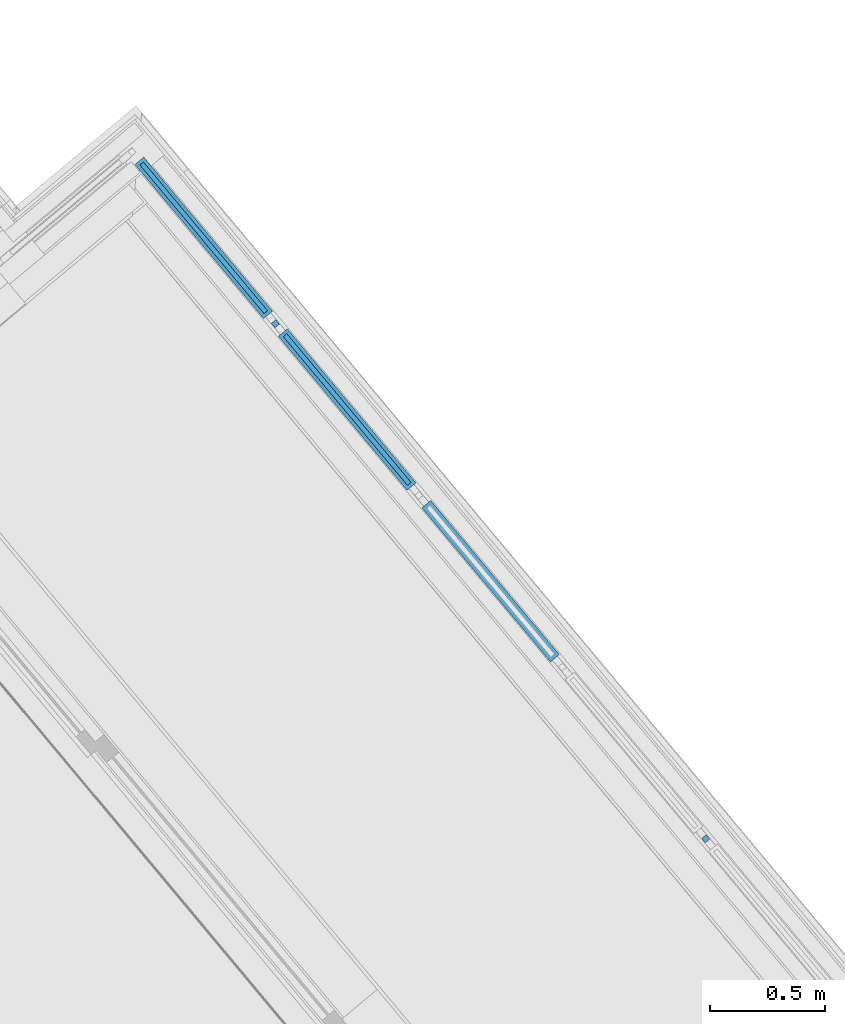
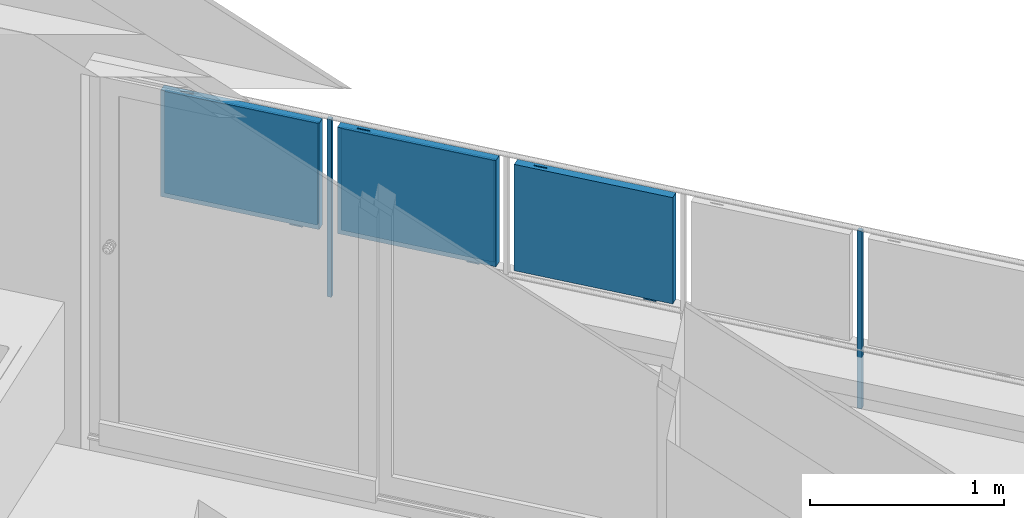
# One storey, part 42 of 61: 7 building element parts, 1 element without a shape of its own.
"""IFC4 building model written with IfcOpenShell, lengths in metres."""

from ifc_helpers import new_model, entity, si_unit, converted_unit, derived_unit, direction, frame, origin_with_axes, place, context, subcontext, project, spatial, polygons, material, type_object, element, aggregate, save


model = new_model("IFC4")

# Units and contexts
model_context = context("Model", 3, precision=1e-05, world=origin_with_axes(), true_north=direction((0.0, 1.0)))
body_context = subcontext(model_context, "Body", "Model", "MODEL_VIEW")
ifc_project = project(units=[si_unit("LENGTHUNIT", "METRE"), si_unit("AREAUNIT", "SQUARE_METRE"), si_unit("VOLUMEUNIT", "CUBIC_METRE"), converted_unit("PLANEANGLEUNIT", "DEGREE", entity("IfcPlaneAngleMeasure", 0.0174532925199), si_unit("PLANEANGLEUNIT", "RADIAN"), dimensions=[0, 0, 0, 0, 0, 0, 0]), converted_unit("TIMEUNIT", "Year", entity("IfcTimeMeasure", 31556926.0), si_unit("TIMEUNIT", "SECOND"), dimensions=[0, 0, 1, 0, 0, 0, 0]), si_unit("MASSUNIT", "GRAM", prefix="KILO"), si_unit("THERMODYNAMICTEMPERATUREUNIT", "DEGREE_CELSIUS"), si_unit("LUMINOUSINTENSITYUNIT", "LUMEN"), si_unit("ENERGYUNIT", "JOULE", prefix="MEGA"), derived_unit("THERMALCONDUCTANCEUNIT", [(si_unit("POWERUNIT", "WATT"), 1), (si_unit("LENGTHUNIT", "METRE"), -1), (si_unit("THERMODYNAMICTEMPERATUREUNIT", "KELVIN"), -1)]), derived_unit("SPECIFICHEATCAPACITYUNIT", [(si_unit("ENERGYUNIT", "JOULE"), 1), (si_unit("MASSUNIT", "GRAM", prefix="KILO"), -1), (si_unit("THERMODYNAMICTEMPERATUREUNIT", "KELVIN"), -1)]), derived_unit("MASSDENSITYUNIT", [(si_unit("MASSUNIT", "GRAM", prefix="KILO"), 1), (si_unit("VOLUMEUNIT", "CUBIC_METRE"), -1)])], contexts=[model_context])

# Site, building, storey, space
site_placement = place(None, frame((-0.00153261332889, -0.00661245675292, 0.0), z_axis=(0.0, 0.0, 1.0), x_axis=(1.0, 0.0, 0.0)))
site = spatial("IfcSite", under=ifc_project, at=site_placement, Name="Gelände", CompositionType="ELEMENT")
building_placement = place(site_placement, origin_with_axes())
building = spatial("IfcBuilding", under=site, at=building_placement, Name="Gebäude", CompositionType="ELEMENT")
storey_placement = place(building_placement, frame((0.0, 0.0, 5.7), z_axis=(0.0, 0.0, 1.0), x_axis=(1.0, 0.0, 0.0)))
storey = spatial("IfcBuildingStorey", under=building, at=storey_placement, Name="DG1", CompositionType="ELEMENT", Elevation=5.7)
space_placement = place(storey_placement, frame((9.89495575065, 25.0808160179, 0.22), z_axis=(0.0, 0.0, 1.0), x_axis=(-0.767365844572, -0.641209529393, 0.0)))
space = spatial("IfcSpace", under=storey, at=space_placement, CompositionType="ELEMENT", PredefinedType="NOTDEFINED")

# Railing, building element parts
railing_type = type_object("IfcRailingType", Name="Geländerart", PredefinedType="NOTDEFINED")
railing_placement = place(space_placement, frame((0.391162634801, 5.51606821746, 0.16), z_axis=(0.0, 0.0, 1.0), x_axis=(-0.767365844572, 0.641209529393, 0.0)))
railing = element("IfcRailing", 1, at=railing_placement, inside=space, type_object=railing_type, Name="Geländer - 001", PredefinedType="NOTDEFINED")
ifc_material_1 = material(Name="Aluminium")
building_element_part_1_placement = place(railing_placement, origin_with_axes())
building_element_part_1 = element("IfcBuildingElementPart", 2, at=building_element_part_1_placement, material=ifc_material_1, Name="Aluminium", PredefinedType="NOTDEFINED", context=body_context, shape_type="Tessellation", body=[
    polygons([(-0.0294549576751, 2.39349521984, -0.3), (-0.0486412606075, 2.37746756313, -0.3), (-0.0486412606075, 2.37746756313, 0.82), (-0.0294549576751, 2.39349521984, 0.82), (-0.0134273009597, 2.37430891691, -0.3), (-0.0326136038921, 2.35828126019, -0.3), (-0.0326136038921, 2.35828126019, 0.82), (-0.0134273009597, 2.37430891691, 0.82)], [[[1, 2, 3, 4]], [[1, 5, 6, 2]], [[2, 6, 7, 3]], [[4, 3, 7, 8]], [[5, 1, 4, 8]], [[6, 5, 8, 7]]], closed=True),
])
building_element_part_2_placement = place(railing_placement, origin_with_axes())
building_element_part_2 = element("IfcBuildingElementPart", 3, at=building_element_part_2_placement, material=ifc_material_1, Name="Aluminium", PredefinedType="NOTDEFINED", context=body_context, shape_type="Tessellation", body=[
    polygons([(-0.752048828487, 3.23509702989, 0.12), (-0.79692626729, 3.2888186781, 0.12), (-0.79692626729, 3.2888186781, 0.095), (-0.752048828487, 3.23509702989, 0.095), (-0.7482115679, 3.23830256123, 0.12), (-0.793089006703, 3.29202420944, 0.12), (-0.793089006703, 3.29202420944, 0.095), (-0.7482115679, 3.23830256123, 0.095)], [[[1, 2, 3, 4]], [[5, 6, 2, 1]], [[2, 6, 7, 3]], [[4, 3, 7, 8]], [[1, 4, 8, 5]], [[8, 7, 6, 5]]], closed=True),
    polygons([(-1.18264692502, 3.75055513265, 0.79), (-1.13776948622, 3.69683348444, 0.79), (-1.13776948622, 3.69683348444, 0.795), (-1.18264692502, 3.75055513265, 0.795), (-1.17880966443, 3.75376066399, 0.79), (-1.13393222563, 3.70003901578, 0.79), (-1.13393222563, 3.70003901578, 0.795), (-1.17880966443, 3.75376066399, 0.795)], [[[1, 2, 3, 4]], [[5, 6, 2, 1]], [[2, 6, 7, 3]], [[4, 3, 7, 8]], [[1, 4, 8, 5]], [[8, 7, 6, 5]]], closed=True),
    polygons([(-0.6668332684, 3.17598224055, 0.12), (-0.705205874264, 3.14392692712, 0.12), (-1.26402522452, 3.81287545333, 0.12), (-1.22565261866, 3.84493076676, 0.12), (-0.679655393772, 3.19133128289, 0.14), (-0.691167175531, 3.18171468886, 0.14), (-0.687961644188, 3.17787742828, 0.135), (-0.703310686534, 3.1650553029, 0.135), (-0.706516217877, 3.16889256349, 0.14), (-0.718027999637, 3.15927596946, 0.14), (-1.25120309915, 3.79752641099, 0.14), (-1.25120309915, 3.79752641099, 0.77), (-0.718027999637, 3.15927596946, 0.77), (-0.718027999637, 3.15927596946, 0.14), (-0.705205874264, 3.14392692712, 0.12), (-0.705205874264, 3.14392692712, 0.79), (-1.26402522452, 3.81287545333, 0.79), (-1.22565261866, 3.84493076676, 0.79), (-0.6668332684, 3.17598224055, 0.79), (-0.6668332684, 3.17598224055, 0.12), (-0.679655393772, 3.19133128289, 0.14), (-0.679655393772, 3.19133128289, 0.77), (-1.21283049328, 3.82958172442, 0.77), (-1.21283049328, 3.82958172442, 0.14), (-1.22434227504, 3.81996513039, 0.14), (-1.22434227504, 3.81996513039, 0.77), (-0.691167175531, 3.18171468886, 0.77), (-0.691167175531, 3.18171468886, 0.14), (-0.687961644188, 3.17787742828, 0.135), (-0.687961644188, 3.17787742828, 0.775), (-1.22754780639, 3.82380239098, 0.775), (-1.22754780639, 3.82380239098, 0.135), (-1.24289684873, 3.8109802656, 0.135), (-1.24289684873, 3.8109802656, 0.775), (-0.703310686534, 3.1650553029, 0.775), (-0.703310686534, 3.1650553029, 0.135), (-0.706516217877, 3.16889256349, 0.14), (-0.706516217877, 3.16889256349, 0.77), (-1.23969131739, 3.80714300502, 0.77), (-1.23969131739, 3.80714300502, 0.14)], [[[1, 2, 3, 4]], [[1, 5, 6, 7, 8, 9, 10, 2]], [[2, 10, 11, 12, 13, 14, 15, 16, 17, 3]], [[4, 3, 17, 18]], [[5, 1, 4, 18, 19, 20, 21, 22, 23, 24]], [[6, 5, 24, 25]], [[7, 6, 25, 26, 27, 28, 29, 30, 31, 32]], [[8, 7, 32, 33]], [[9, 8, 33, 34, 35, 36, 37, 38, 39, 40]], [[10, 9, 40, 11]], [[11, 40, 39, 12]], [[12, 39, 38, 13]], [[13, 38, 37, 14]], [[20, 15, 14, 37, 36, 29, 28, 21]], [[19, 16, 15, 20]], [[18, 17, 16, 19]], [[27, 22, 21, 28]], [[26, 23, 22, 27]], [[25, 24, 23, 26]], [[35, 30, 29, 36]], [[34, 31, 30, 35]], [[33, 32, 31, 34]]], closed=True),
])
ifc_material_2 = material(Name="Profilit")
building_element_part_3_placement = place(railing_placement, origin_with_axes())
building_element_part_3 = element("IfcBuildingElementPart", 4, at=building_element_part_3_placement, material=ifc_material_2, Name="Profilit", PredefinedType="NOTDEFINED", context=body_context, shape_type="Tessellation", body=[
    polygons([(-1.86582682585, 4.55667400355, 0.135), (-1.32624066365, 3.91074904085, 0.135), (-1.32624066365, 3.91074904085, 0.775), (-1.86582682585, 4.55667400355, 0.775), (-1.31089162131, 3.92357116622, 0.135), (-1.8504777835, 4.56949612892, 0.135), (-1.31089162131, 3.92357116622, 0.775), (-1.8504777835, 4.56949612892, 0.775)], [[[1, 2, 3, 4]], [[5, 2, 1, 6]], [[7, 3, 2, 5]], [[4, 3, 7, 8]], [[1, 4, 8, 6]], [[7, 5, 6, 8]]], closed=True),
])
building_element_part_4_placement = place(railing_placement, origin_with_axes())
building_element_part_4 = element("IfcBuildingElementPart", 5, at=building_element_part_4_placement, material=ifc_material_1, Name="Aluminium", PredefinedType="NOTDEFINED", context=body_context, shape_type="Tessellation", body=[
    polygons([(-1.3749788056, 3.98079076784, 0.12), (-1.41985624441, 4.03451241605, 0.12), (-1.41985624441, 4.03451241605, 0.095), (-1.3749788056, 3.98079076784, 0.095), (-1.37114154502, 3.98399629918, 0.12), (-1.41601898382, 4.03771794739, 0.12), (-1.41601898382, 4.03771794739, 0.095), (-1.37114154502, 3.98399629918, 0.095)], [[[1, 2, 3, 4]], [[5, 6, 2, 1]], [[2, 6, 7, 3]], [[4, 3, 7, 8]], [[1, 4, 8, 5]], [[8, 7, 6, 5]]], closed=True),
    polygons([(-1.80557690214, 4.4962488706, 0.79), (-1.76069946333, 4.44252722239, 0.79), (-1.76069946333, 4.44252722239, 0.795), (-1.80557690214, 4.4962488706, 0.795), (-1.80173964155, 4.49945440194, 0.79), (-1.75686220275, 4.44573275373, 0.79), (-1.75686220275, 4.44573275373, 0.795), (-1.80173964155, 4.49945440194, 0.795)], [[[1, 2, 3, 4]], [[5, 6, 2, 1]], [[2, 6, 7, 3]], [[4, 3, 7, 8]], [[1, 4, 8, 5]], [[8, 7, 6, 5]]], closed=True),
    polygons([(-1.28976324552, 3.92167597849, 0.12), (-1.32813585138, 3.88962066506, 0.12), (-1.88695520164, 4.55856919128, 0.12), (-1.84858259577, 4.59062450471, 0.12), (-1.30258537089, 3.93702502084, 0.14), (-1.31409715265, 3.92740842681, 0.14), (-1.31089162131, 3.92357116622, 0.135), (-1.32624066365, 3.91074904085, 0.135), (-1.32944619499, 3.91458630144, 0.14), (-1.34095797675, 3.90496970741, 0.14), (-1.87413307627, 4.54322014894, 0.14), (-1.87413307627, 4.54322014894, 0.77), (-1.34095797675, 3.90496970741, 0.77), (-1.34095797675, 3.90496970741, 0.14), (-1.32813585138, 3.88962066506, 0.12), (-1.32813585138, 3.88962066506, 0.79), (-1.88695520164, 4.55856919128, 0.79), (-1.84858259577, 4.59062450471, 0.79), (-1.28976324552, 3.92167597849, 0.79), (-1.28976324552, 3.92167597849, 0.12), (-1.30258537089, 3.93702502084, 0.14), (-1.30258537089, 3.93702502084, 0.77), (-1.8357604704, 4.57527546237, 0.77), (-1.8357604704, 4.57527546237, 0.14), (-1.84727225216, 4.56565886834, 0.14), (-1.84727225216, 4.56565886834, 0.77), (-1.31409715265, 3.92740842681, 0.77), (-1.31409715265, 3.92740842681, 0.14), (-1.31089162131, 3.92357116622, 0.135), (-1.31089162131, 3.92357116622, 0.775), (-1.8504777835, 4.56949612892, 0.775), (-1.8504777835, 4.56949612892, 0.135), (-1.86582682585, 4.55667400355, 0.135), (-1.86582682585, 4.55667400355, 0.775), (-1.32624066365, 3.91074904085, 0.775), (-1.32624066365, 3.91074904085, 0.135), (-1.32944619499, 3.91458630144, 0.14), (-1.32944619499, 3.91458630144, 0.77), (-1.86262129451, 4.55283674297, 0.77), (-1.86262129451, 4.55283674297, 0.14)], [[[1, 2, 3, 4]], [[1, 5, 6, 7, 8, 9, 10, 2]], [[2, 10, 11, 12, 13, 14, 15, 16, 17, 3]], [[4, 3, 17, 18]], [[5, 1, 4, 18, 19, 20, 21, 22, 23, 24]], [[6, 5, 24, 25]], [[7, 6, 25, 26, 27, 28, 29, 30, 31, 32]], [[8, 7, 32, 33]], [[9, 8, 33, 34, 35, 36, 37, 38, 39, 40]], [[10, 9, 40, 11]], [[11, 40, 39, 12]], [[12, 39, 38, 13]], [[13, 38, 37, 14]], [[20, 15, 14, 37, 36, 29, 28, 21]], [[19, 16, 15, 20]], [[18, 17, 16, 19]], [[27, 22, 21, 28]], [[26, 23, 22, 27]], [[25, 24, 23, 26]], [[35, 30, 29, 36]], [[34, 31, 30, 35]], [[33, 32, 31, 34]]], closed=True),
])
building_element_part_5_placement = place(railing_placement, origin_with_axes())
building_element_part_5 = element("IfcBuildingElementPart", 6, at=building_element_part_5_placement, material=ifc_material_1, Name="Aluminium", PredefinedType="NOTDEFINED", context=body_context, shape_type="Tessellation", body=[
    polygons([(-1.89824488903, 4.63057643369, -0.3), (-1.91743119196, 4.61454877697, -0.3), (-1.91743119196, 4.61454877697, 0.82), (-1.89824488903, 4.63057643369, 0.82), (-1.88221723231, 4.61139013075, -0.3), (-1.90140353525, 4.59536247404, -0.3), (-1.90140353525, 4.59536247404, 0.82), (-1.88221723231, 4.61139013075, 0.82)], [[[1, 2, 3, 4]], [[1, 5, 6, 2]], [[2, 6, 7, 3]], [[4, 3, 7, 8]], [[5, 1, 4, 8]], [[6, 5, 8, 7]]], closed=True),
])
building_element_part_6_placement = place(railing_placement, origin_with_axes())
building_element_part_6 = element("IfcBuildingElementPart", 7, at=building_element_part_6_placement, material=ifc_material_2, Name="Profilit", PredefinedType="NOTDEFINED", context=body_context, shape_type="Tessellation", body=[
    polygons([(-2.48875680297, 5.3023677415, 0.135), (-1.94917064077, 4.6564427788, 0.135), (-1.94917064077, 4.6564427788, 0.775), (-2.48875680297, 5.3023677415, 0.775), (-1.93382159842, 4.66926490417, 0.135), (-2.47340776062, 5.31518986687, 0.135), (-1.93382159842, 4.66926490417, 0.775), (-2.47340776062, 5.31518986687, 0.775)], [[[1, 2, 3, 4]], [[5, 2, 1, 6]], [[7, 3, 2, 5]], [[4, 3, 7, 8]], [[1, 4, 8, 6]], [[7, 5, 6, 8]]], closed=True),
])
building_element_part_7_placement = place(railing_placement, origin_with_axes())
building_element_part_7 = element("IfcBuildingElementPart", 8, at=building_element_part_7_placement, material=ifc_material_1, Name="Aluminium", PredefinedType="NOTDEFINED", context=body_context, shape_type="Tessellation", body=[
    polygons([(-1.99790878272, 4.72648450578, 0.12), (-2.04278622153, 4.780206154, 0.12), (-2.04278622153, 4.780206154, 0.095), (-1.99790878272, 4.72648450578, 0.095), (-1.99407152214, 4.72969003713, 0.12), (-2.03894896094, 4.78341168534, 0.12), (-2.03894896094, 4.78341168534, 0.095), (-1.99407152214, 4.72969003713, 0.095)], [[[1, 2, 3, 4]], [[5, 6, 2, 1]], [[2, 6, 7, 3]], [[4, 3, 7, 8]], [[1, 4, 8, 5]], [[8, 7, 6, 5]]], closed=True),
    polygons([(-2.42850687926, 5.24194260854, 0.79), (-2.38362944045, 5.18822096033, 0.79), (-2.38362944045, 5.18822096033, 0.795), (-2.42850687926, 5.24194260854, 0.795), (-2.42466961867, 5.24514813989, 0.79), (-2.37979217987, 5.19142649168, 0.79), (-2.37979217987, 5.19142649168, 0.795), (-2.42466961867, 5.24514813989, 0.795)], [[[1, 2, 3, 4]], [[5, 6, 2, 1]], [[2, 6, 7, 3]], [[4, 3, 7, 8]], [[1, 4, 8, 5]], [[8, 7, 6, 5]]], closed=True),
    polygons([(-1.91269322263, 4.66736971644, 0.12), (-1.9510658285, 4.63531440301, 0.12), (-2.50988517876, 5.30426292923, 0.12), (-2.47151257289, 5.33631824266, 0.12), (-1.92551534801, 4.68271875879, 0.14), (-1.93702712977, 4.67310216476, 0.14), (-1.93382159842, 4.66926490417, 0.135), (-1.94917064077, 4.6564427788, 0.135), (-1.95237617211, 4.66028003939, 0.14), (-1.96388795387, 4.65066344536, 0.14), (-2.49706305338, 5.28891388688, 0.14), (-2.49706305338, 5.28891388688, 0.77), (-1.96388795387, 4.65066344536, 0.77), (-1.96388795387, 4.65066344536, 0.14), (-1.9510658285, 4.63531440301, 0.12), (-1.9510658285, 4.63531440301, 0.79), (-2.50988517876, 5.30426292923, 0.79), (-2.47151257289, 5.33631824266, 0.79), (-1.91269322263, 4.66736971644, 0.79), (-1.91269322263, 4.66736971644, 0.12), (-1.92551534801, 4.68271875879, 0.14), (-1.92551534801, 4.68271875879, 0.77), (-2.45869044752, 5.32096920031, 0.77), (-2.45869044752, 5.32096920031, 0.14), (-2.47020222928, 5.31135260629, 0.14), (-2.47020222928, 5.31135260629, 0.77), (-1.93702712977, 4.67310216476, 0.77), (-1.93702712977, 4.67310216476, 0.14), (-1.93382159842, 4.66926490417, 0.135), (-1.93382159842, 4.66926490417, 0.775), (-2.47340776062, 5.31518986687, 0.775), (-2.47340776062, 5.31518986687, 0.135), (-2.48875680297, 5.3023677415, 0.135), (-2.48875680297, 5.3023677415, 0.775), (-1.94917064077, 4.6564427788, 0.775), (-1.94917064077, 4.6564427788, 0.135), (-1.95237617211, 4.66028003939, 0.14), (-1.95237617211, 4.66028003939, 0.77), (-2.48555127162, 5.29853048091, 0.77), (-2.48555127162, 5.29853048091, 0.14)], [[[1, 2, 3, 4]], [[1, 5, 6, 7, 8, 9, 10, 2]], [[2, 10, 11, 12, 13, 14, 15, 16, 17, 3]], [[4, 3, 17, 18]], [[5, 1, 4, 18, 19, 20, 21, 22, 23, 24]], [[6, 5, 24, 25]], [[7, 6, 25, 26, 27, 28, 29, 30, 31, 32]], [[8, 7, 32, 33]], [[9, 8, 33, 34, 35, 36, 37, 38, 39, 40]], [[10, 9, 40, 11]], [[11, 40, 39, 12]], [[12, 39, 38, 13]], [[13, 38, 37, 14]], [[20, 15, 14, 37, 36, 29, 28, 21]], [[19, 16, 15, 20]], [[18, 17, 16, 19]], [[27, 22, 21, 28]], [[26, 23, 22, 27]], [[25, 24, 23, 26]], [[35, 30, 29, 36]], [[34, 31, 30, 35]], [[33, 32, 31, 34]]], closed=True),
])
aggregate(railing, [building_element_part_1, building_element_part_2, building_element_part_3, building_element_part_4, building_element_part_5, building_element_part_6, building_element_part_7])

save(model, "model.ifc")
